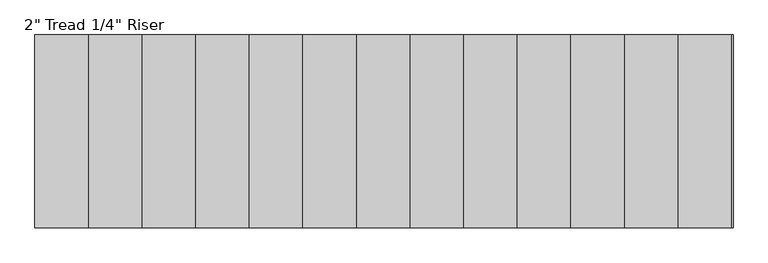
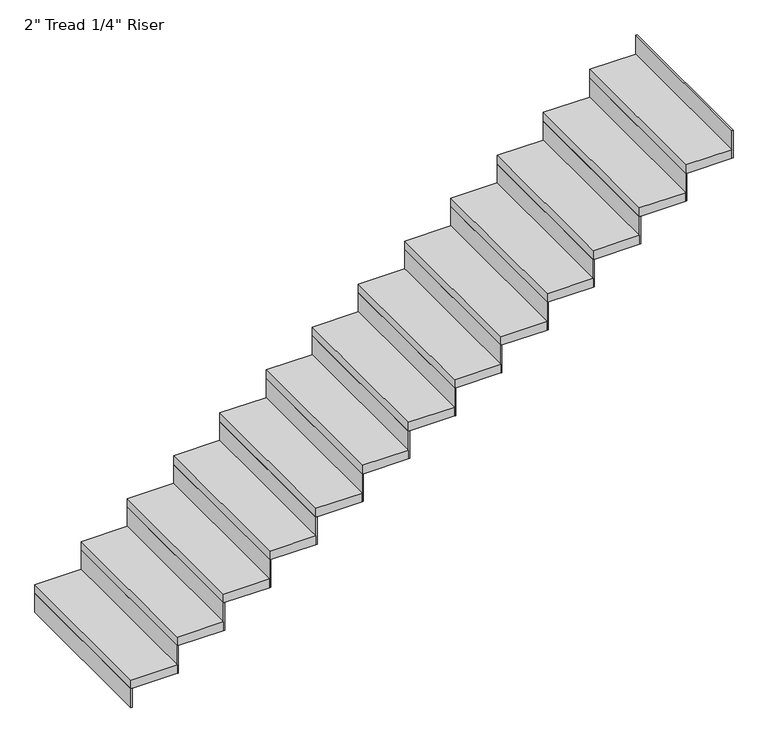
"""IFC4 building model written with IfcOpenShell, lengths in millimetres: stair flight geometry."""

from ifc_helpers import new_model, si_unit, frame, origin, origin_with_axes, place, context, project, spatial, polyline, outline, extrude, source, transform, mapped, element, save


def stair_flight_0a3a4cb7(model_context):
    return source(origin(), model_context, "Body", "SweptSolid", [
        extrude(outline(polyline([(109730.0884933, -35524.5173894), (109723.7384933, -35524.5173894), (109723.7384933, -34610.1173894), (109730.0884933, -34610.1173894), (109730.0884933, -35524.5173894)])), origin_with_axes(), (0.0, 0.0, 1.0), 109.6210526),
        extrude(outline(polyline([(109977.7384933, -34610.1173894), (109977.7384933, -35524.5173894), (109723.7384933, -35524.5173894), (109723.7384933, -34610.1173894), (109977.7384933, -34610.1173894)])), frame((0.0, 0.0, 109.6210526), z_axis=(0.0, 0.0, 1.0), x_axis=(1.0, 0.0, 0.0)), (0.0, 0.0, 1.0), 50.8),
        extrude(outline(polyline([(109984.0884933, -35524.5173894), (109977.7384933, -35524.5173894), (109977.7384933, -34610.1173894), (109984.0884933, -34610.1173894), (109984.0884933, -35524.5173894)])), frame((0.0, 0.0, 109.6210526), z_axis=(0.0, 0.0, 1.0), x_axis=(1.0, 0.0, 0.0)), (0.0, 0.0, 1.0), 160.4210526),
        extrude(outline(polyline([(110231.7384933, -34610.1173894), (110231.7384933, -35524.5173894), (109977.7384933, -35524.5173894), (109977.7384933, -34610.1173894), (110231.7384933, -34610.1173894)])), frame((0.0, 0.0, 270.0421053), z_axis=(0.0, 0.0, 1.0), x_axis=(1.0, 0.0, 0.0)), (0.0, 0.0, 1.0), 50.8),
        extrude(outline(polyline([(110238.0884933, -35524.5173894), (110231.7384933, -35524.5173894), (110231.7384933, -34610.1173894), (110238.0884933, -34610.1173894), (110238.0884933, -35524.5173894)])), frame((0.0, 0.0, 270.0421053), z_axis=(0.0, 0.0, 1.0), x_axis=(1.0, 0.0, 0.0)), (0.0, 0.0, 1.0), 160.4210526),
        extrude(outline(polyline([(110485.7384933, -34610.1173894), (110485.7384933, -35524.5173894), (110231.7384933, -35524.5173894), (110231.7384933, -34610.1173894), (110485.7384933, -34610.1173894)])), frame((0.0, 0.0, 430.4631579), z_axis=(0.0, 0.0, 1.0), x_axis=(1.0, 0.0, 0.0)), (0.0, 0.0, 1.0), 50.8),
        extrude(outline(polyline([(110492.0884933, -35524.5173894), (110485.7384933, -35524.5173894), (110485.7384933, -34610.1173894), (110492.0884933, -34610.1173894), (110492.0884933, -35524.5173894)])), frame((0.0, 0.0, 430.4631579), z_axis=(0.0, 0.0, 1.0), x_axis=(1.0, 0.0, 0.0)), (0.0, 0.0, 1.0), 160.4210526),
        extrude(outline(polyline([(110739.7384933, -34610.1173894), (110739.7384933, -35524.5173894), (110485.7384933, -35524.5173894), (110485.7384933, -34610.1173894), (110739.7384933, -34610.1173894)])), frame((0.0, 0.0, 590.8842105), z_axis=(0.0, 0.0, 1.0), x_axis=(1.0, 0.0, 0.0)), (0.0, 0.0, 1.0), 50.8),
        extrude(outline(polyline([(110746.0884933, -35524.5173894), (110739.7384933, -35524.5173894), (110739.7384933, -34610.1173894), (110746.0884933, -34610.1173894), (110746.0884933, -35524.5173894)])), frame((0.0, 0.0, 590.8842105), z_axis=(0.0, 0.0, 1.0), x_axis=(1.0, 0.0, 0.0)), (0.0, 0.0, 1.0), 160.4210526),
        extrude(outline(polyline([(110993.7384933, -34610.1173894), (110993.7384933, -35524.5173894), (110739.7384933, -35524.5173894), (110739.7384933, -34610.1173894), (110993.7384933, -34610.1173894)])), frame((0.0, 0.0, 751.3052632), z_axis=(0.0, 0.0, 1.0), x_axis=(1.0, 0.0, 0.0)), (0.0, 0.0, 1.0), 50.8),
        extrude(outline(polyline([(111000.0884933, -35524.5173894), (110993.7384933, -35524.5173894), (110993.7384933, -34610.1173894), (111000.0884933, -34610.1173894), (111000.0884933, -35524.5173894)])), frame((0.0, 0.0, 751.3052632), z_axis=(0.0, 0.0, 1.0), x_axis=(1.0, 0.0, 0.0)), (0.0, 0.0, 1.0), 160.4210526),
        extrude(outline(polyline([(111247.7384933, -34610.1173894), (111247.7384933, -35524.5173894), (110993.7384933, -35524.5173894), (110993.7384933, -34610.1173894), (111247.7384933, -34610.1173894)])), frame((0.0, 0.0, 911.7263158), z_axis=(0.0, 0.0, 1.0), x_axis=(1.0, 0.0, 0.0)), (0.0, 0.0, 1.0), 50.8),
        extrude(outline(polyline([(111254.0884933, -35524.5173894), (111247.7384933, -35524.5173894), (111247.7384933, -34610.1173894), (111254.0884933, -34610.1173894), (111254.0884933, -35524.5173894)])), frame((0.0, 0.0, 911.7263158), z_axis=(0.0, 0.0, 1.0), x_axis=(1.0, 0.0, 0.0)), (0.0, 0.0, 1.0), 160.4210526),
        extrude(outline(polyline([(111501.7384933, -34610.1173894), (111501.7384933, -35524.5173894), (111247.7384933, -35524.5173894), (111247.7384933, -34610.1173894), (111501.7384933, -34610.1173894)])), frame((0.0, 0.0, 1072.1473684), z_axis=(0.0, 0.0, 1.0), x_axis=(1.0, 0.0, 0.0)), (0.0, 0.0, 1.0), 50.8),
        extrude(outline(polyline([(111508.0884933, -35524.5173894), (111501.7384933, -35524.5173894), (111501.7384933, -34610.1173894), (111508.0884933, -34610.1173894), (111508.0884933, -35524.5173894)])), frame((0.0, 0.0, 1072.1473684), z_axis=(0.0, 0.0, 1.0), x_axis=(1.0, 0.0, 0.0)), (0.0, 0.0, 1.0), 160.4210526),
        extrude(outline(polyline([(111755.7384933, -34610.1173894), (111755.7384933, -35524.5173894), (111501.7384933, -35524.5173894), (111501.7384933, -34610.1173894), (111755.7384933, -34610.1173894)])), frame((0.0, 0.0, 1232.5684211), z_axis=(0.0, 0.0, 1.0), x_axis=(1.0, 0.0, 0.0)), (0.0, 0.0, 1.0), 50.8),
        extrude(outline(polyline([(111762.0884933, -35524.5173894), (111755.7384933, -35524.5173894), (111755.7384933, -34610.1173894), (111762.0884933, -34610.1173894), (111762.0884933, -35524.5173894)])), frame((0.0, 0.0, 1232.5684211), z_axis=(0.0, 0.0, 1.0), x_axis=(1.0, 0.0, 0.0)), (0.0, 0.0, 1.0), 160.4210526),
        extrude(outline(polyline([(112009.7384933, -34610.1173894), (112009.7384933, -35524.5173894), (111755.7384933, -35524.5173894), (111755.7384933, -34610.1173894), (112009.7384933, -34610.1173894)])), frame((0.0, 0.0, 1392.9894737), z_axis=(0.0, 0.0, 1.0), x_axis=(1.0, 0.0, 0.0)), (0.0, 0.0, 1.0), 50.8),
        extrude(outline(polyline([(112016.0884933, -35524.5173894), (112009.7384933, -35524.5173894), (112009.7384933, -34610.1173894), (112016.0884933, -34610.1173894), (112016.0884933, -35524.5173894)])), frame((0.0, 0.0, 1392.9894737), z_axis=(0.0, 0.0, 1.0), x_axis=(1.0, 0.0, 0.0)), (0.0, 0.0, 1.0), 160.4210526),
        extrude(outline(polyline([(112263.7384933, -34610.1173894), (112263.7384933, -35524.5173894), (112009.7384933, -35524.5173894), (112009.7384933, -34610.1173894), (112263.7384933, -34610.1173894)])), frame((0.0, 0.0, 1553.4105263), z_axis=(0.0, 0.0, 1.0), x_axis=(1.0, 0.0, 0.0)), (0.0, 0.0, 1.0), 50.8),
        extrude(outline(polyline([(112270.0884933, -35524.5173894), (112263.7384933, -35524.5173894), (112263.7384933, -34610.1173894), (112270.0884933, -34610.1173894), (112270.0884933, -35524.5173894)])), frame((0.0, 0.0, 1553.4105263), z_axis=(0.0, 0.0, 1.0), x_axis=(1.0, 0.0, 0.0)), (0.0, 0.0, 1.0), 160.4210526),
        extrude(outline(polyline([(112517.7384933, -34610.1173894), (112517.7384933, -35524.5173894), (112263.7384933, -35524.5173894), (112263.7384933, -34610.1173894), (112517.7384933, -34610.1173894)])), frame((0.0, 0.0, 1713.8315789), z_axis=(0.0, 0.0, 1.0), x_axis=(1.0, 0.0, 0.0)), (0.0, 0.0, 1.0), 50.8),
        extrude(outline(polyline([(112524.0884933, -35524.5173894), (112517.7384933, -35524.5173894), (112517.7384933, -34610.1173894), (112524.0884933, -34610.1173894), (112524.0884933, -35524.5173894)])), frame((0.0, 0.0, 1713.8315789), z_axis=(0.0, 0.0, 1.0), x_axis=(1.0, 0.0, 0.0)), (0.0, 0.0, 1.0), 160.4210526),
        extrude(outline(polyline([(112771.7384933, -34610.1173894), (112771.7384933, -35524.5173894), (112517.7384933, -35524.5173894), (112517.7384933, -34610.1173894), (112771.7384933, -34610.1173894)])), frame((0.0, 0.0, 1874.2526316), z_axis=(0.0, 0.0, 1.0), x_axis=(1.0, 0.0, 0.0)), (0.0, 0.0, 1.0), 50.8),
        extrude(outline(polyline([(112778.0884933, -35524.5173894), (112771.7384933, -35524.5173894), (112771.7384933, -34610.1173894), (112778.0884933, -34610.1173894), (112778.0884933, -35524.5173894)])), frame((0.0, 0.0, 1874.2526316), z_axis=(0.0, 0.0, 1.0), x_axis=(1.0, 0.0, 0.0)), (0.0, 0.0, 1.0), 160.4210526),
        extrude(outline(polyline([(113032.0884933, -35524.5173894), (113025.7384933, -35524.5173894), (113025.7384933, -34610.1173894), (113032.0884933, -34610.1173894), (113032.0884933, -35524.5173894)])), frame((0.0, 0.0, 2034.6736842), z_axis=(0.0, 0.0, 1.0), x_axis=(1.0, 0.0, 0.0)), (0.0, 0.0, 1.0), 160.4210526),
        extrude(outline(polyline([(113025.7384933, -34610.1173894), (113025.7384933, -35524.5173894), (112771.7384933, -35524.5173894), (112771.7384933, -34610.1173894), (113025.7384933, -34610.1173894)])), frame((0.0, 0.0, 2034.6736842), z_axis=(0.0, 0.0, 1.0), x_axis=(1.0, 0.0, 0.0)), (0.0, 0.0, 1.0), 50.8),
    ])


if __name__ == "__main__":
    model = new_model("IFC4")
    model_context = context("Model", 3, world=origin())
    ifc_project = project(units=[si_unit("LENGTHUNIT", "METRE", prefix="MILLI")], contexts=[model_context])
    site = spatial("IfcSite", under=ifc_project)
    building = spatial("IfcBuilding", under=site)
    placement = place(None, origin())
    stair_flight_shape = stair_flight_0a3a4cb7(model_context)
    element("IfcStairFlight", 1, ObjectType="2\" Tread 1/4\" Riser", at=placement, inside=building, context=model_context, shape_type="MappedRepresentation", body=[
        mapped(stair_flight_shape, transform((0.0, 0.0, 0.0), x_axis=(1.0, 0.0, 0.0), y_axis=(0.0, 1.0, 0.0), z_axis=(0.0, 0.0, 1.0))),
    ])
    save(model, "model.ifc")
